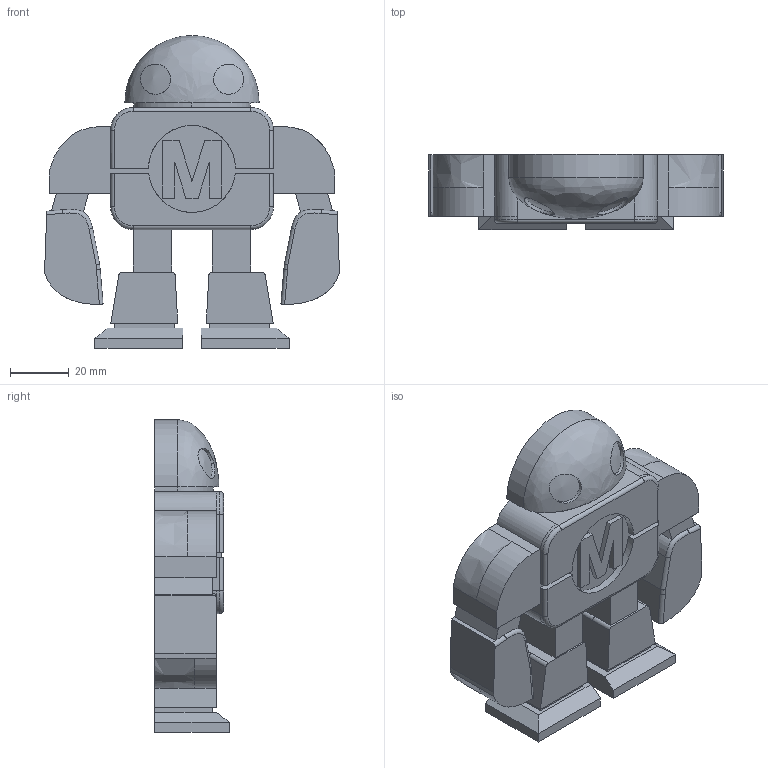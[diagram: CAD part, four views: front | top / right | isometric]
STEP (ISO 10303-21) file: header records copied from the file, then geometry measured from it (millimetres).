
FILE_DESCRIPTION(/* description */ (''),/* implementation_level */ '2;1');
FILE_NAME(/* name */ 'Makey Thick',/* time_stamp */ '2025-12-29T11:51:43-05:00',/* author */ (''),/* organization */ (''),/* preprocessor_version */ 'ST-DEVELOPER v19.2',/* originating_system */ 'Rhino 8.14',/* authorisation */ '');
FILE_SCHEMA (('CONFIG_CONTROL_DESIGN'));
Length unit declared in the file: inch
Products named in the file (1): Document
Bounding box: 100.38 x 25.4 x 106.6 mm (x, y, z)
Volume: 141769.2 mm3; surface area: 28828.2 mm2
Topology: 1 solids, 1 shells, 151 faces, 420 edges, 273 vertices
Faces by surface type: plane 91, cylinder 35, bspline 25
Entity records: 5078 total; most frequent: CARTESIAN_POINT 2123, ORIENTED_EDGE 838, EDGE_CURVE 419, B_SPLINE_CURVE_WITH_KNOTS 362, VERTEX_POINT 273, DIRECTION 178, EDGE_LOOP 154, AXIS2_PLACEMENT_3D 152
